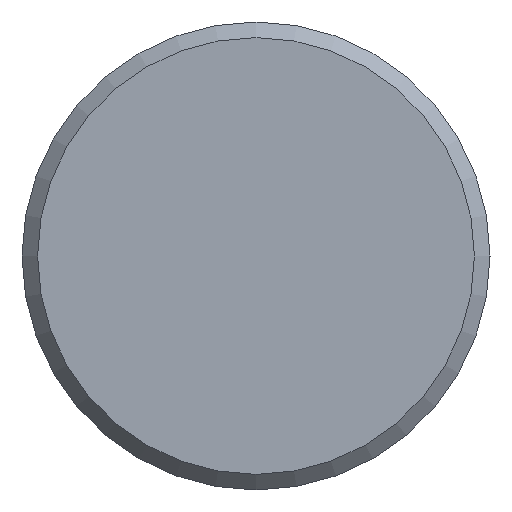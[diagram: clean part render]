
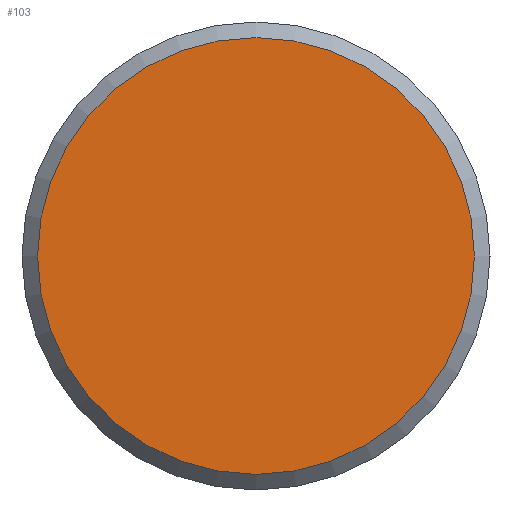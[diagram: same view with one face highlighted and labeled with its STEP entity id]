
A CAD part, left-side view. The second image highlights one B-rep face of the part: STEP entity #103.
In plain terms, the highlighted planar face has unit normal (-1, 0, 0).
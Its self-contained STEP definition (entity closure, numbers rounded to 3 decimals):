
#16=PLANE('',#138);
#30=FACE_OUTER_BOUND('',#36,.T.);
#36=EDGE_LOOP('',(#89));
#45=CIRCLE('',#137,14.);
#53=VERTEX_POINT('',#197);
#65=EDGE_CURVE('',#53,#53,#45,.T.);
#89=ORIENTED_EDGE('',*,*,#65,.F.);
#103=ADVANCED_FACE('',(#30),#16,.F.);
#137=AXIS2_PLACEMENT_3D('',#199,#170,#171);
#138=AXIS2_PLACEMENT_3D('',#200,#172,#173);
#170=DIRECTION('center_axis',(1.,0.,0.));
#171=DIRECTION('ref_axis',(0.,-1.,0.));
#172=DIRECTION('center_axis',(1.,0.,0.));
#173=DIRECTION('ref_axis',(0.,0.,-1.));
#197=CARTESIAN_POINT('',(0.,14.,0.));
#199=CARTESIAN_POINT('Origin',(0.,0.,0.));
#200=CARTESIAN_POINT('Origin',(0.,0.,0.));
